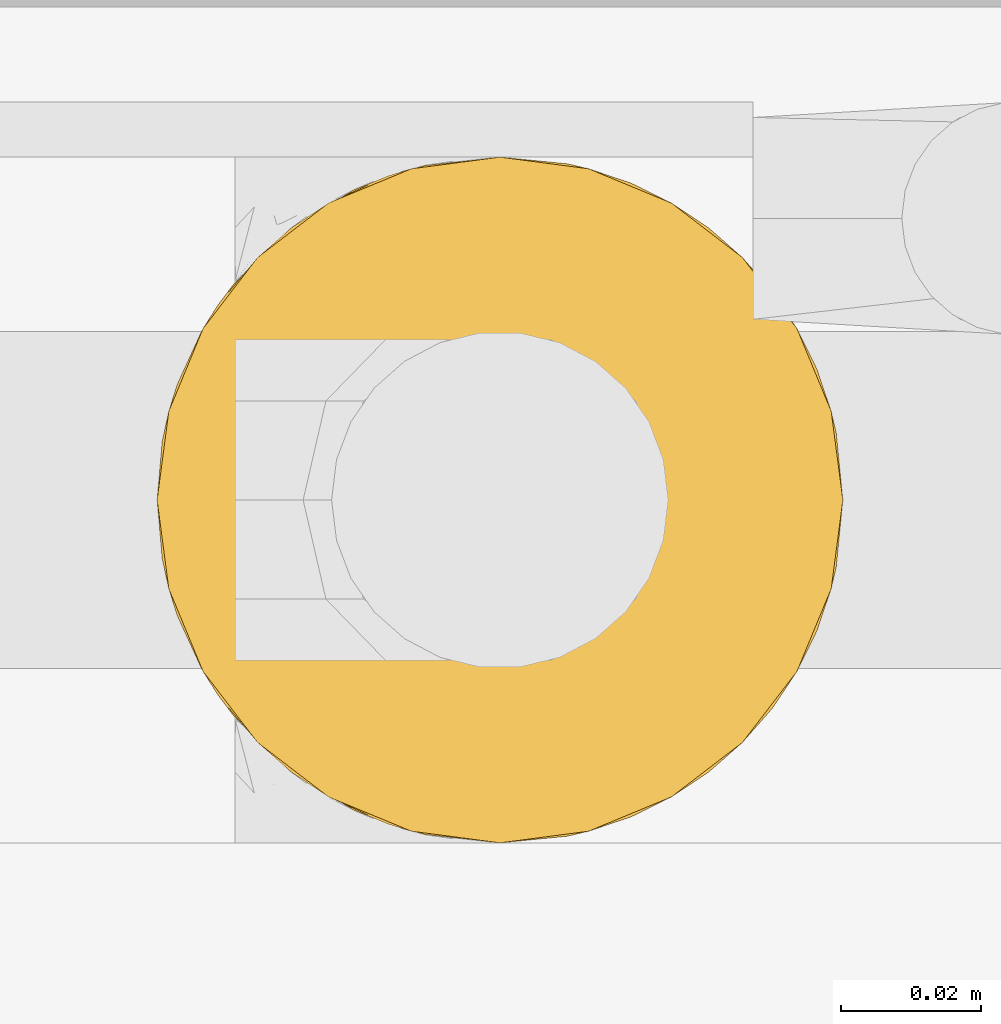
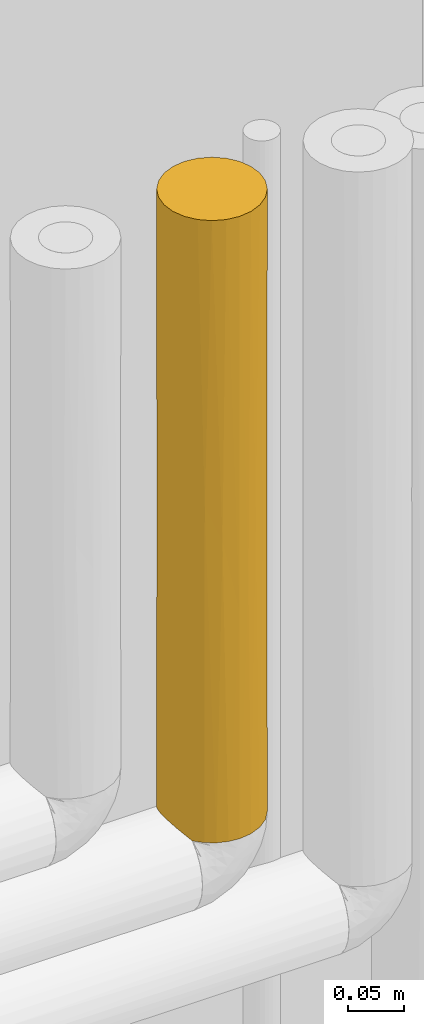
# One storey, part 59 of 94: 1 covering.
"""IFC2X3 building model written with IfcOpenShell, lengths in millimetres."""

from ifc_helpers import new_model, entity, si_unit, converted_unit, derived_unit, direction, frame, origin, place, context, subcontext, project, spatial, faceted_brep, material, element, save


model = new_model("IFC2X3")

# Units and contexts
model_context = context("Model", 3, precision=0.01, world=origin(), true_north=direction((6.123031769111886e-17, 1.0)))
body_context = subcontext(model_context, "Body", "Model", "MODEL_VIEW")
ifc_project = project(units=[si_unit("LENGTHUNIT", "METRE", prefix="MILLI"), si_unit("AREAUNIT", "SQUARE_METRE"), si_unit("VOLUMEUNIT", "CUBIC_METRE"), converted_unit("PLANEANGLEUNIT", "DEGREE", entity("IfcRatioMeasure", 0.017453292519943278), si_unit("PLANEANGLEUNIT", "RADIAN"), dimensions=[0, 0, 0, 0, 0, 0, 0]), si_unit("MASSUNIT", "GRAM", prefix="KILO"), derived_unit("MASSDENSITYUNIT", [(si_unit("MASSUNIT", "GRAM", prefix="KILO"), 1), (si_unit("LENGTHUNIT", "METRE"), -3)]), derived_unit("IONCONCENTRATIONUNIT", [(si_unit("MASSUNIT", "GRAM", prefix="KILO"), 1), (si_unit("LENGTHUNIT", "METRE"), -3)]), derived_unit("MOMENTOFINERTIAUNIT", [(si_unit("LENGTHUNIT", "METRE"), 4)]), si_unit("TIMEUNIT", "SECOND"), si_unit("FREQUENCYUNIT", "HERTZ"), si_unit("THERMODYNAMICTEMPERATUREUNIT", "DEGREE_CELSIUS"), derived_unit("THERMALTRANSMITTANCEUNIT", [(si_unit("MASSUNIT", "GRAM", prefix="KILO"), 1), (si_unit("THERMODYNAMICTEMPERATUREUNIT", "KELVIN"), -1), (si_unit("TIMEUNIT", "SECOND"), -3)]), derived_unit("THERMALCONDUCTANCEUNIT", [(si_unit("MASSUNIT", "GRAM", prefix="KILO"), 1), (si_unit("THERMODYNAMICTEMPERATUREUNIT", "KELVIN"), -1), (si_unit("TIMEUNIT", "SECOND"), -3), (si_unit("LENGTHUNIT", "METRE"), 1)]), derived_unit("VOLUMETRICFLOWRATEUNIT", [(si_unit("LENGTHUNIT", "METRE"), 3), (si_unit("TIMEUNIT", "SECOND"), -1)]), derived_unit("MASSFLOWRATEUNIT", [(si_unit("MASSUNIT", "GRAM", prefix="KILO"), 1), (si_unit("TIMEUNIT", "SECOND"), -1)]), derived_unit("ROTATIONALFREQUENCYUNIT", [(si_unit("TIMEUNIT", "SECOND"), -1)]), si_unit("ELECTRICCURRENTUNIT", "AMPERE"), si_unit("ELECTRICVOLTAGEUNIT", "VOLT"), si_unit("POWERUNIT", "WATT"), si_unit("FORCEUNIT", "NEWTON", prefix="KILO"), si_unit("ILLUMINANCEUNIT", "LUX"), si_unit("LUMINOUSFLUXUNIT", "LUMEN"), si_unit("LUMINOUSINTENSITYUNIT", "CANDELA"), derived_unit("USERDEFINED", [(si_unit("MASSUNIT", "GRAM", prefix="KILO"), -1), (si_unit("LENGTHUNIT", "METRE"), -2), (si_unit("TIMEUNIT", "SECOND"), 3), (si_unit("LUMINOUSFLUXUNIT", "LUMEN"), 1)]), derived_unit("USERDEFINED", [(si_unit("MASSUNIT", "GRAM", prefix="KILO"), 1), (si_unit("TIMEUNIT", "SECOND"), -3), (si_unit("LENGTHUNIT", "METRE"), 3), (si_unit("ELECTRICCURRENTUNIT", "AMPERE"), -2)]), derived_unit("SOUNDPOWERUNIT", [(si_unit("MASSUNIT", "GRAM", prefix="KILO"), 1), (si_unit("TIMEUNIT", "SECOND"), -3), (si_unit("LENGTHUNIT", "METRE"), 2)]), derived_unit("SOUNDPRESSUREUNIT", [(si_unit("MASSUNIT", "GRAM", prefix="KILO"), 1), (si_unit("LENGTHUNIT", "METRE"), -1), (si_unit("TIMEUNIT", "SECOND"), -2)]), derived_unit("LINEARVELOCITYUNIT", [(si_unit("LENGTHUNIT", "METRE"), 1), (si_unit("TIMEUNIT", "SECOND"), -1)]), si_unit("PRESSUREUNIT", "PASCAL"), derived_unit("USERDEFINED", [(si_unit("MASSUNIT", "GRAM", prefix="KILO"), 1), (si_unit("LENGTHUNIT", "METRE"), -2), (si_unit("TIMEUNIT", "SECOND"), -2)]), derived_unit("LINEARFORCEUNIT", [(si_unit("MASSUNIT", "GRAM", prefix="KILO"), 1), (si_unit("TIMEUNIT", "SECOND"), -2)]), derived_unit("PLANARFORCEUNIT", [(si_unit("MASSUNIT", "GRAM", prefix="KILO"), 1), (si_unit("LENGTHUNIT", "METRE"), -1), (si_unit("TIMEUNIT", "SECOND"), -2)]), derived_unit("SPECIFICHEATCAPACITYUNIT", [(si_unit("THERMODYNAMICTEMPERATUREUNIT", "KELVIN"), -1), (si_unit("LENGTHUNIT", "METRE"), 2), (si_unit("TIMEUNIT", "SECOND"), -2)]), derived_unit("HEATINGVALUEUNIT", [(si_unit("LENGTHUNIT", "METRE"), 2), (si_unit("TIMEUNIT", "SECOND"), -2)]), derived_unit("VAPORPERMEABILITYUNIT", [(si_unit("LENGTHUNIT", "METRE"), -1), (si_unit("TIMEUNIT", "SECOND"), 1)]), derived_unit("DYNAMICVISCOSITYUNIT", [(si_unit("MASSUNIT", "GRAM", prefix="KILO"), 1), (si_unit("TIMEUNIT", "SECOND"), -1), (si_unit("LENGTHUNIT", "METRE"), -1)]), derived_unit("THERMALEXPANSIONCOEFFICIENTUNIT", [(si_unit("THERMODYNAMICTEMPERATUREUNIT", "KELVIN"), -1)]), derived_unit("MODULUSOFELASTICITYUNIT", [(si_unit("MASSUNIT", "GRAM", prefix="KILO"), 1), (si_unit("LENGTHUNIT", "METRE"), -1), (si_unit("TIMEUNIT", "SECOND"), -2)]), derived_unit("ISOTHERMALMOISTURECAPACITYUNIT", [(si_unit("LENGTHUNIT", "METRE"), 3), (si_unit("MASSUNIT", "GRAM", prefix="KILO"), -1)]), derived_unit("MOISTUREDIFFUSIVITYUNIT", [(si_unit("TIMEUNIT", "SECOND"), -1), (si_unit("LENGTHUNIT", "METRE"), 2)])], contexts=[model_context])

# Site, building, storey
site_placement = place(None, origin())
site = spatial("IfcSite", under=ifc_project, at=site_placement, Name="Default", CompositionType="ELEMENT")
building_placement = place(site_placement, origin())
building = spatial("IfcBuilding", under=site, at=building_placement, CompositionType="ELEMENT")
storey_placement = place(building_placement, origin())
storey = spatial("IfcBuildingStorey", under=building, at=storey_placement, Name="Niveau 0", CompositionType="ELEMENT", Elevation=0.0)

# Covering
ifc_material = material(Name="Isolation - Laine minérale")
covering_placement = place(storey_placement, frame((-6059.897585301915, 9976.120352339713, 3262.0)))
element("IfcCovering", 1, at=covering_placement, inside=storey, material=ifc_material, Name="Isolation des canalisations:Laine minérale", ObjectType="Isolation des canalisations:Laine minérale", PredefinedType="INSULATION", context=body_context, shape_type="Brep", body=[
    faceted_brep([(29.696487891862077, 6.32316497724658, -674.0), (20.474956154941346, 12.012544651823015, -674.0), (12.725272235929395, 19.58435221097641, -674.0), (12.725272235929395, 81.8661922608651, -674.0), (20.474956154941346, 89.4379998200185, -674.0), (29.696487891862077, 95.12737949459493, -674.0), (39.940498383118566, 98.65694811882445, -674.0), (50.72527223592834, 99.85527223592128, -674.0), (63.441051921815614, 98.18120808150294, -674.0), (75.2902722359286, 93.27310032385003, -674.0), (85.46542839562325, 85.46542839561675, -674.0), (93.27310032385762, 75.29027223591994, -674.0), (98.18120808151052, 63.441051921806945, -674.0), (99.85527223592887, 50.725272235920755, -674.0), (98.18120808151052, 38.009492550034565, -674.0), (93.27310032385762, 26.16027223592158, -674.0), (85.46542839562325, 15.985116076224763, -674.0), (75.2902722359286, 8.17744414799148, -674.0), (63.441051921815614, 3.2693363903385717, -674.0), (50.72527223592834, 1.5952722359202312, -674.0), (39.940498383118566, 2.7935963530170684, -674.0), (8.17744414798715, 26.160272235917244, 0.0), (15.985116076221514, 15.98511607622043, 0.0), (26.160272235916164, 8.17744414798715, 0.0), (38.00949255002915, 3.26933639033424, 0.0), (50.72527223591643, 1.5952722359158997, 0.0), (63.4410519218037, 3.26933639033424, 0.0), (75.29027223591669, 8.17744414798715, 0.0), (85.46542839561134, 15.98511607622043, 0.0), (93.2731003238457, 26.160272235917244, 0.0), (98.18120808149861, 38.00949255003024, 0.0), (99.85527223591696, 50.72527223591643, 0.0), (98.18120808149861, 63.44105192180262, 0.0), (93.2731003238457, 75.29027223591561, 0.0), (85.46542839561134, 85.46542839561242, 0.0), (75.29027223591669, 93.2731003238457, 0.0), (63.4410519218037, 98.18120808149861, 0.0), (50.72527223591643, 99.85527223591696, 0.0), (38.00949255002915, 98.18120808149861, 0.0), (26.160272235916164, 93.2731003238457, 0.0), (15.985116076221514, 85.46542839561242, 0.0), (8.17744414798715, 75.29027223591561, 0.0), (3.26933639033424, 63.44105192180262, 0.0), (1.5952722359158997, 50.72527223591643, 0.0), (3.26933639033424, 38.00949255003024, 0.0), (89.70272177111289, 20.816823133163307, -326.6828181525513), (60.31005973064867, 2.539291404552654, -400.0447871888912), (50.72527223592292, 1.5952722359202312, -337.0), (50.725272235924, 1.5952722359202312, -429.2567448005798), (96.11547358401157, 31.924035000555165, -336.99999710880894), (98.91125301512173, 41.14048447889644, -273.9552088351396), (99.85527223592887, 50.72527223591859, -337.0), (80.63372123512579, 11.747822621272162, -347.3171775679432), (69.52650922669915, 5.3350707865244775, -337.0), (34.72089517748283, 4.275118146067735, -348.24300729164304), (20.81682321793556, 11.747822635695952, -310.75536690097), (3.2386692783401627, 38.124500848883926, -343.81929431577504), (4.4613721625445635, 34.190204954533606, -665.7360999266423), (7.96508108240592, 26.531823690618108, -669.239808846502), (10.320723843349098, 22.77479157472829, -336.93977787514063), (1.5952722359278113, 50.725272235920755, -662.8700000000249), (2.3170998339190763, 42.33445912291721, -663.5918275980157), (1.5952722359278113, 50.72527223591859, -418.12667252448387), (3.2386692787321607, 63.32604362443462, -343.81929430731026), (10.3207238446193, 78.67575289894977, -336.93977795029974), (2.3170998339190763, 59.11608534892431, -663.5918275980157), (4.4613721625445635, 67.26033951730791, -665.7360999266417), (20.816823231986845, 89.70272184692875, -310.7553670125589), (7.965081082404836, 74.91872078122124, -669.2398088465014), (34.72089518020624, 97.17542632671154, -348.24300715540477), (50.725272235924, 99.85527223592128, -429.25667275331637), (60.38191839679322, 98.89690377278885, -403.11245564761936), (69.5265092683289, 96.11547366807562, -347.31718127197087), (98.9112530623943, 60.310059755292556, -400.04478761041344), (96.11547366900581, 69.52650926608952, -337.0), (80.63372124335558, 89.70272184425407, -337.0), (89.70272184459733, 80.63372124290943, -347.3171813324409)], [[[0, 1, 2, 3, 4, 5, 6, 7, 8, 9, 10, 11, 12, 13, 14, 15, 16, 17, 18, 19, 20]], [[21, 22, 23, 24, 25, 26, 27, 28, 29, 30, 31, 32, 33, 34, 35, 36, 37, 38, 39, 40, 41, 42, 43, 44]], [[29, 28, 45]], [[46, 25, 47, 48, 19]], [[30, 29, 49]], [[50, 30, 49]], [[46, 19, 18]], [[50, 13, 51, 31]], [[28, 27, 52]], [[30, 50, 31]], [[49, 45, 15]], [[17, 53, 18]], [[45, 49, 29]], [[14, 49, 15]], [[53, 27, 26]], [[14, 50, 49]], [[52, 45, 28]], [[52, 53, 17]], [[52, 27, 53]], [[46, 26, 25]], [[16, 52, 17]], [[53, 46, 18]], [[50, 14, 13]], [[16, 45, 52]], [[26, 46, 53]], [[15, 45, 16]], [[48, 54, 20]], [[55, 54, 23]], [[55, 23, 22]], [[56, 57, 58]], [[24, 48, 47, 25]], [[48, 24, 54]], [[54, 0, 20]], [[0, 54, 55]], [[56, 44, 43]], [[55, 59, 2]], [[56, 59, 21]], [[59, 55, 22]], [[60, 61, 62]], [[55, 1, 0]], [[62, 61, 56]], [[62, 56, 43]], [[2, 59, 58]], [[56, 61, 57]], [[55, 2, 1]], [[56, 58, 59]], [[22, 21, 59]], [[23, 54, 24]], [[44, 56, 21]], [[20, 19, 48]], [[43, 63, 62]], [[63, 43, 42]], [[41, 64, 63]], [[41, 40, 64]], [[65, 63, 66]], [[64, 40, 67]], [[63, 68, 66]], [[63, 64, 68]], [[65, 60, 62]], [[64, 3, 68]], [[62, 63, 65]], [[67, 40, 39]], [[39, 38, 69]], [[67, 4, 3]], [[70, 7, 6]], [[69, 6, 5]], [[5, 67, 69]], [[70, 69, 38]], [[5, 4, 67]], [[70, 6, 69]], [[37, 70, 38]], [[69, 67, 39]], [[3, 64, 67]], [[63, 42, 41]], [[71, 36, 72]], [[32, 73, 74]], [[71, 7, 70, 37]], [[72, 75, 9]], [[75, 72, 35]], [[71, 37, 36]], [[34, 75, 35]], [[75, 10, 9]], [[9, 8, 72]], [[33, 74, 76]], [[13, 73, 31, 51]], [[74, 33, 32]], [[74, 11, 76]], [[34, 76, 75]], [[10, 75, 76]], [[33, 76, 34]], [[71, 72, 8]], [[11, 10, 76]], [[74, 73, 12]], [[11, 74, 12]], [[35, 72, 36]], [[73, 32, 31]], [[7, 71, 8]], [[73, 13, 12]], [[61, 60, 65, 66, 68, 3, 2, 58, 57]]]),
])

save(model, "model.ifc")
